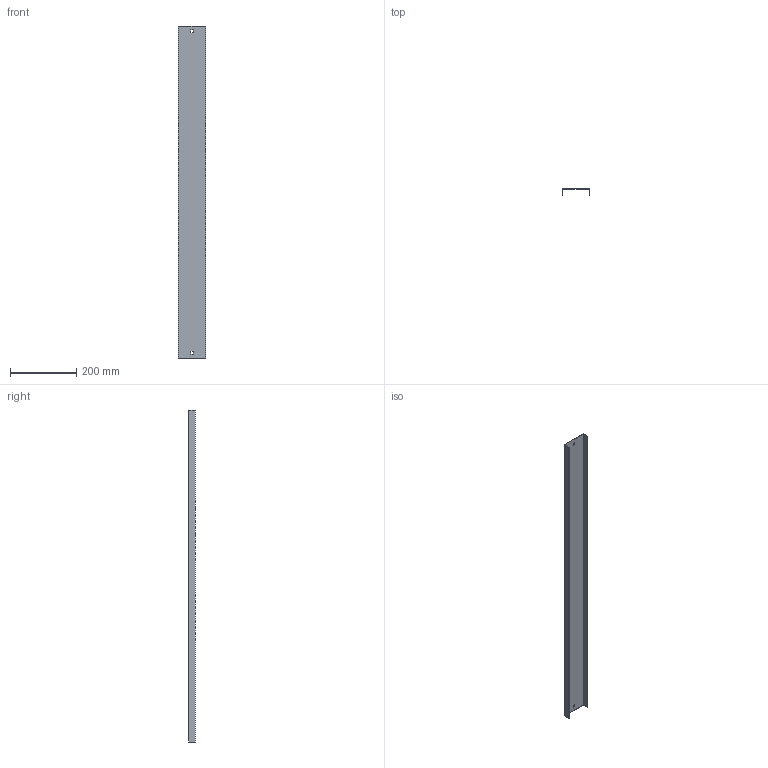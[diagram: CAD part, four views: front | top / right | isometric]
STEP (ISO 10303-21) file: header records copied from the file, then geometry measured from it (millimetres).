
FILE_DESCRIPTION (( 'STEP AP214' ), '1' );
FILE_NAME ('05G1R075.step', '2025-02-21T13:06:35', ( '' ), ( '' ), 'SwSTEP 2.0', 'SolidWorks 2023', '' );
FILE_SCHEMA (( 'AUTOMOTIVE_DESIGN' ));
Length unit declared in the file: millimetre
Products named in the file (1): 05G1R075
Bounding box: 82 x 20 x 1000 mm (x, y, z)
Volume: 178324.5 mm3; surface area: 241216 mm2
Topology: 1 solids, 1 shells, 18 faces, 48 edges, 32 vertices
Faces by surface type: plane 18
Entity records: 583 total; most frequent: CARTESIAN_POINT 99, ORIENTED_EDGE 96, DIRECTION 86, EDGE_CURVE 48, VECTOR 48, LINE 48, VERTEX_POINT 32, EDGE_LOOP 22
